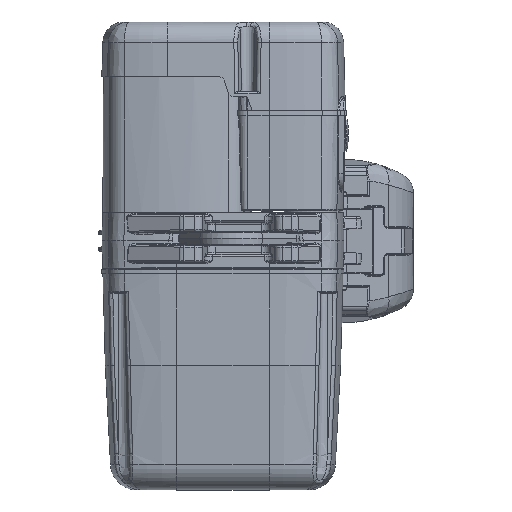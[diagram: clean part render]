
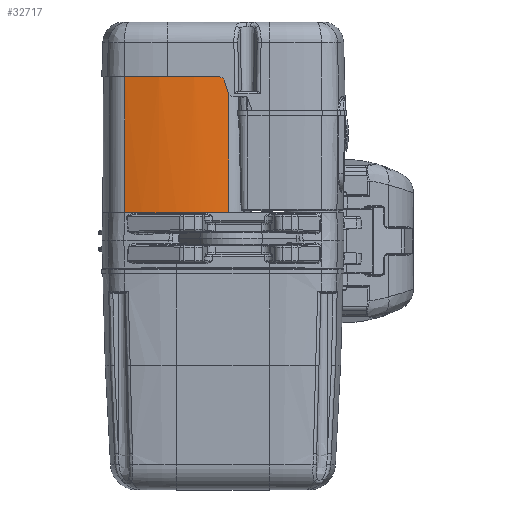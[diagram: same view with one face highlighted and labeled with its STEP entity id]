
A CAD part, top view. The second image highlights one B-rep face of the part: STEP entity #32717.
In plain terms, the highlighted cylindrical face has radius 210 mm (diameter 420 mm), a partial arc.
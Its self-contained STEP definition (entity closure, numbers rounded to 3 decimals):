
#2329=B_SPLINE_CURVE_WITH_KNOTS('',3,(#68701,#68702,#68703,#68704,#68705,
#68706,#68707,#68708),.UNSPECIFIED.,.F.,.F.,(4,2,2,4),(-0.125,
-0.065,-0.03,0.),.UNSPECIFIED.);
#2330=B_SPLINE_CURVE_WITH_KNOTS('',3,(#68727,#68728,#68729,#68730,#68731,
#68732),.UNSPECIFIED.,.F.,.F.,(4,2,4),(-0.633,-0.316,
0.),.UNSPECIFIED.);
#2546=B_SPLINE_CURVE_WITH_KNOTS('',3,(#74134,#74135,#74136,#74137,#74138,
#74139),.UNSPECIFIED.,.F.,.F.,(4,2,4),(4.642,5.019,
5.719),.UNSPECIFIED.);
#4237=LINE('',#77962,#5573);
#4238=LINE('',#77966,#5574);
#5573=VECTOR('',#43926,128.841);
#5574=VECTOR('',#43931,128.5);
#7439=FACE_OUTER_BOUND('',#9443,.T.);
#9443=EDGE_LOOP('',(#27462,#27463,#27464,#27465,#27466,#27467,#27468,#27469,
#27470));
#10829=CIRCLE('',#35134,210.);
#10851=CIRCLE('',#35163,210.);
#11142=CIRCLE('',#35750,210.);
#11290=CIRCLE('',#36070,210.);
#13339=VERTEX_POINT('',#68537);
#13340=VERTEX_POINT('',#68539);
#13383=VERTEX_POINT('',#68700);
#13384=VERTEX_POINT('',#68711);
#13385=VERTEX_POINT('',#68726);
#13830=VERTEX_POINT('',#74133);
#13883=VERTEX_POINT('',#74723);
#14128=VERTEX_POINT('',#77960);
#14129=VERTEX_POINT('',#77964);
#17331=EDGE_CURVE('',#13339,#13340,#10829,.T.);
#17375=EDGE_CURVE('',#13340,#13383,#2329,.T.);
#17377=EDGE_CURVE('',#13383,#13384,#10851,.T.);
#17379=EDGE_CURVE('',#13384,#13385,#2330,.T.);
#18127=EDGE_CURVE('',#13385,#13830,#2546,.T.);
#18206=EDGE_CURVE('',#13830,#13883,#11142,.T.);
#18631=EDGE_CURVE('',#14128,#13883,#4237,.T.);
#18632=EDGE_CURVE('',#14129,#14128,#11290,.T.);
#18633=EDGE_CURVE('',#13339,#14129,#4238,.T.);
#27462=ORIENTED_EDGE('',*,*,#18632,.T.);
#27463=ORIENTED_EDGE('',*,*,#18631,.T.);
#27464=ORIENTED_EDGE('',*,*,#18206,.F.);
#27465=ORIENTED_EDGE('',*,*,#18127,.F.);
#27466=ORIENTED_EDGE('',*,*,#17379,.F.);
#27467=ORIENTED_EDGE('',*,*,#17377,.F.);
#27468=ORIENTED_EDGE('',*,*,#17375,.F.);
#27469=ORIENTED_EDGE('',*,*,#17331,.F.);
#27470=ORIENTED_EDGE('',*,*,#18633,.T.);
#29122=CYLINDRICAL_SURFACE('',#36069,210.);
#32717=ADVANCED_FACE('',(#7439),#29122,.T.);
#35134=AXIS2_PLACEMENT_3D('',#68540,#41739,#41740);
#35163=AXIS2_PLACEMENT_3D('',#68712,#41806,#41807);
#35750=AXIS2_PLACEMENT_3D('',#74735,#43165,#43166);
#36069=AXIS2_PLACEMENT_3D('',#77963,#43927,#43928);
#36070=AXIS2_PLACEMENT_3D('',#77965,#43929,#43930);
#41739=DIRECTION('center_axis',(0.,0.,-1.));
#41740=DIRECTION('ref_axis',(-0.119,-0.993,0.));
#41806=DIRECTION('center_axis',(0.,0.,
-1.));
#41807=DIRECTION('ref_axis',(-0.119,-0.993,0.));
#43165=DIRECTION('center_axis',(0.,0.,
-1.));
#43166=DIRECTION('ref_axis',(-0.119,-0.993,0.));
#43926=DIRECTION('',(0.,0.,-1.));
#43927=DIRECTION('center_axis',(0.,0.,
1.));
#43928=DIRECTION('ref_axis',(-0.119,-0.993,0.));
#43929=DIRECTION('center_axis',(0.,0.,
-1.));
#43930=DIRECTION('ref_axis',(-0.119,-0.993,0.));
#43931=DIRECTION('',(0.,0.,1.));
#68537=CARTESIAN_POINT('',(-5.376,74.113,27.));
#68539=CARTESIAN_POINT('',(7.713,76.841,27.));
#68540=CARTESIAN_POINT('Origin',(44.,-130.,27.));
#68700=CARTESIAN_POINT('',(8.95,77.054,27.043));
#68701=CARTESIAN_POINT('Ctrl Pts',(7.713,76.841,27.));
#68702=CARTESIAN_POINT('Ctrl Pts',(7.911,76.876,27.));
#68703=CARTESIAN_POINT('Ctrl Pts',(8.112,76.911,27.011));
#68704=CARTESIAN_POINT('Ctrl Pts',(8.437,76.967,27.029));
#68705=CARTESIAN_POINT('Ctrl Pts',(8.541,76.985,27.034));
#68706=CARTESIAN_POINT('Ctrl Pts',(8.753,77.021,27.041));
#68707=CARTESIAN_POINT('Ctrl Pts',(8.85,77.037,27.043));
#68708=CARTESIAN_POINT('Ctrl Pts',(8.95,77.054,27.043));
#68711=CARTESIAN_POINT('',(26.127,79.238,27.043));
#68712=CARTESIAN_POINT('Origin',(44.,-130.,27.043));
#68726=CARTESIAN_POINT('',(32.445,79.682,26.975));
#68727=CARTESIAN_POINT('Ctrl Pts',(26.127,79.238,27.043));
#68728=CARTESIAN_POINT('Ctrl Pts',(27.181,79.328,27.043));
#68729=CARTESIAN_POINT('Ctrl Pts',(28.233,79.41,27.036));
#68730=CARTESIAN_POINT('Ctrl Pts',(30.34,79.558,27.011));
#68731=CARTESIAN_POINT('Ctrl Pts',(31.392,79.624,26.994));
#68732=CARTESIAN_POINT('Ctrl Pts',(32.445,79.682,26.975));
#74133=CARTESIAN_POINT('',(44.,80.,26.659));
#74134=CARTESIAN_POINT('Ctrl Pts',(32.445,79.682,26.975));
#74135=CARTESIAN_POINT('Ctrl Pts',(33.786,79.756,26.951));
#74136=CARTESIAN_POINT('Ctrl Pts',(35.163,79.818,26.911));
#74137=CARTESIAN_POINT('Ctrl Pts',(39.102,79.959,26.78));
#74138=CARTESIAN_POINT('Ctrl Pts',(41.666,80.,26.659));
#74139=CARTESIAN_POINT('Ctrl Pts',(44.,80.,26.659));
#74723=CARTESIAN_POINT('',(93.376,74.113,26.659));
#74735=CARTESIAN_POINT('Origin',(44.,-130.,26.659));
#77960=CARTESIAN_POINT('',(93.376,74.113,155.5));
#77962=CARTESIAN_POINT('',(93.376,74.113,30.));
#77963=CARTESIAN_POINT('Origin',(44.,-130.,30.));
#77964=CARTESIAN_POINT('',(-5.376,74.113,155.5));
#77965=CARTESIAN_POINT('Origin',(44.,-130.,155.5));
#77966=CARTESIAN_POINT('',(-5.376,74.113,30.));
